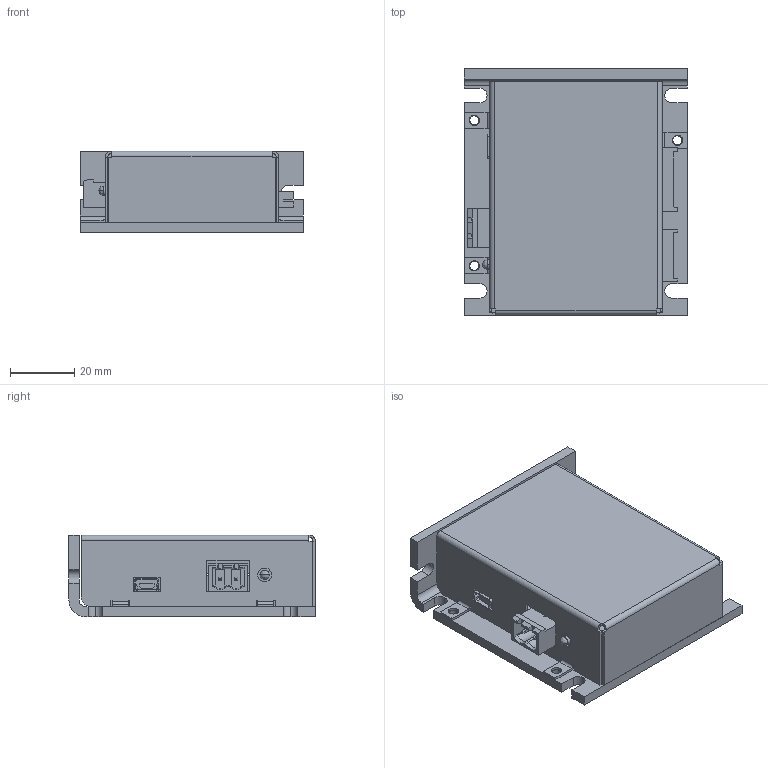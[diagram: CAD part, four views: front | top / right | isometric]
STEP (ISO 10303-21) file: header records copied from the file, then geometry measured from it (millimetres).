
FILE_DESCRIPTION (( 'STEP AP214' ), '1' );
FILE_NAME ('ACE-SXE-external.STEP', '2011-08-01T17:01:55', ( '' ), ( '' ), 'SwSTEP 2.0', 'SolidWorks 2011', '' );
FILE_SCHEMA (( 'AUTOMOTIVE_DESIGN' ));
Length unit declared in the file: inch
Products named in the file (8): SW3dPS-conn_usb_mini-1; SW3dPS-b18b-HRS-90D-1; SW3dPS-b14b-HRS-90D-1; SW3dPS-65-187, LED1x1,Y-1; mstba_2.5-2-g-1; ACE-SXE-COVER-1; ACE-BASE-PLATE-1; ACE-SXE-external
Assembly tree (7 placements, depth 2):
  ACE-SXE-external
    SW3dPS-b18b-HRS-90D-1
    SW3dPS-65-187, LED1x1,Y-1
    mstba_2.5-2-g-1
    SW3dPS-b14b-HRS-90D-1
    ACE-BASE-PLATE-1
    SW3dPS-conn_usb_mini-1
    ACE-SXE-COVER-1
Bounding box: 69.85 x 76.83 x 25.4 mm (x, y, z)
Volume: 27528.3 mm3; surface area: 34846.3 mm2
Topology: 6 solids, 9 shells, 1345 faces, 3484 edges, 2215 vertices
Faces by surface type: plane 1052, cylinder 289, bspline 2, cone 2
Entity records: 58242 total; most frequent: CARTESIAN_POINT 7095, ORIENTED_EDGE 6944, DIRECTION 6780, EDGE_CURVE 3482, VECTOR 2884, LINE 2884, VERTEX_POINT 2215, AXIS2_PLACEMENT_3D 1948
